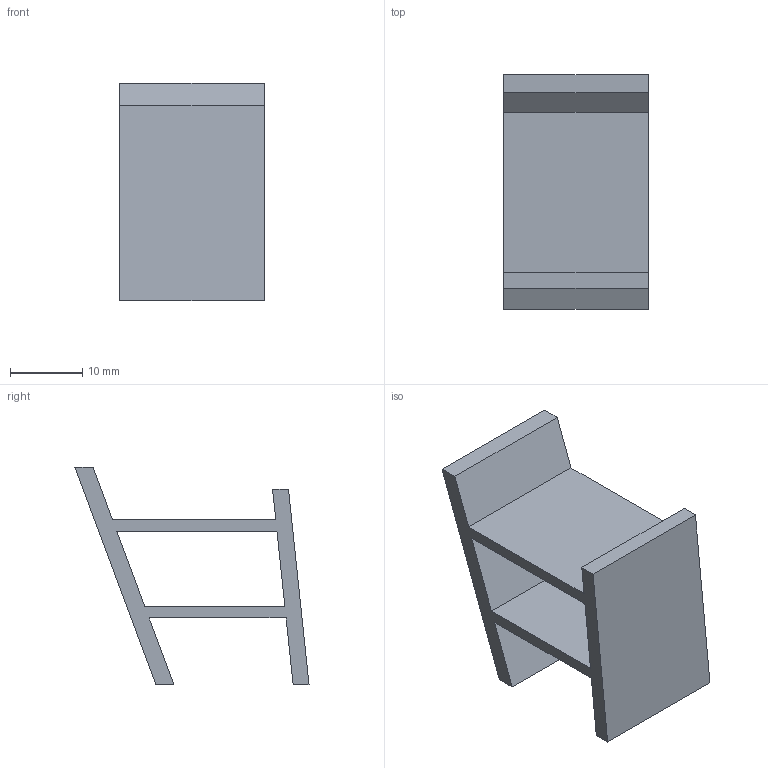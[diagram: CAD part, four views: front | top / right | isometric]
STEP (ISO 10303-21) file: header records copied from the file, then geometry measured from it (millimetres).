
FILE_DESCRIPTION(('Open CASCADE Model'),'2;1');
FILE_NAME('Open CASCADE Shape Model','2026-10-16T00:30:56',('Author'),( 'Open CASCADE'),'Open CASCADE STEP processor 7.9','Open CASCADE 7.9' ,'Unknown');
FILE_SCHEMA(('AUTOMOTIVE_DESIGN { 1 0 10303 214 1 1 1 1 }'));
Length unit declared in the file: millimetre
Products named in the file (1): Open CASCADE STEP translator 7.9 35
Bounding box: 20 x 32.33 x 30 mm (x, y, z)
Volume: 4015.1 mm3; surface area: 4482.3 mm2
Topology: 1 solids, 1 shells, 18 faces, 48 edges, 32 vertices
Faces by surface type: plane 18
Entity records: 1190 total; most frequent: CARTESIAN_POINT 195, DIRECTION 182, LINE 144, VECTOR 144, ORIENTED_EDGE 96, PCURVE 96, DEFINITIONAL_REPRESENTATION 96, EDGE_CURVE 48
